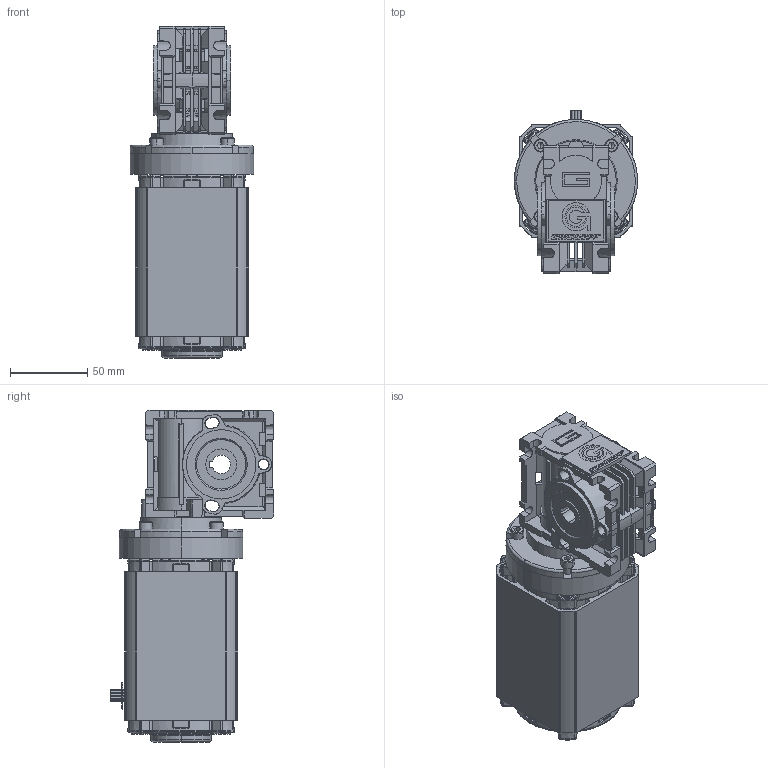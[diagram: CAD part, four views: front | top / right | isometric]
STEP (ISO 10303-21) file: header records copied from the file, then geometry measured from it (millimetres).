
FILE_DESCRIPTION (( 'STEP AP214' ), '1' );
FILE_NAME ('BL6520-RA2600T.STEP', '2013-01-29T15:02:45', ( '' ), ( '' ), 'SwSTEP 2.0', 'SolidWorks 2013', '' );
FILE_SCHEMA (( 'AUTOMOTIVE_DESIGN' ));
Length unit declared in the file: inch
Products named in the file (1): BL6520-RA2600T
Bounding box: 80.01 x 105.87 x 215.2 mm (x, y, z)
Surface area: 133993.6 mm2 (no closed solid volume)
Topology: 0 solids, 57 shells, 1599 faces, 5611 edges, 3925 vertices
Faces by surface type: plane 740, cylinder 362, cone 256, torus 149, bspline 84, sphere 8
Entity records: 86826 total; most frequent: CARTESIAN_POINT 19505, DIRECTION 9479, ORIENTED_EDGE 9201, EDGE_CURVE 5597, VERTEX_POINT 3925, AXIS2_PLACEMENT_3D 3228, LINE 3023, VECTOR 3023
